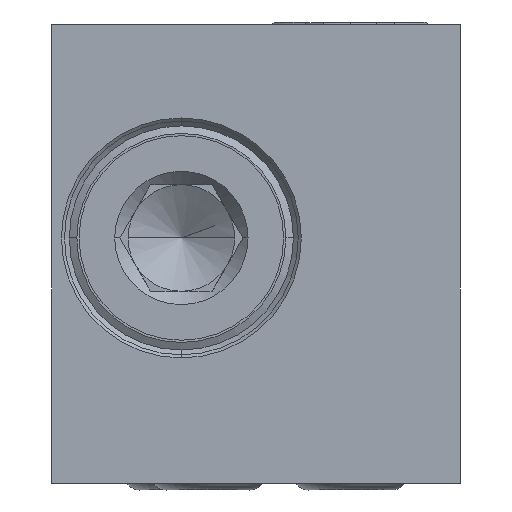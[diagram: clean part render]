
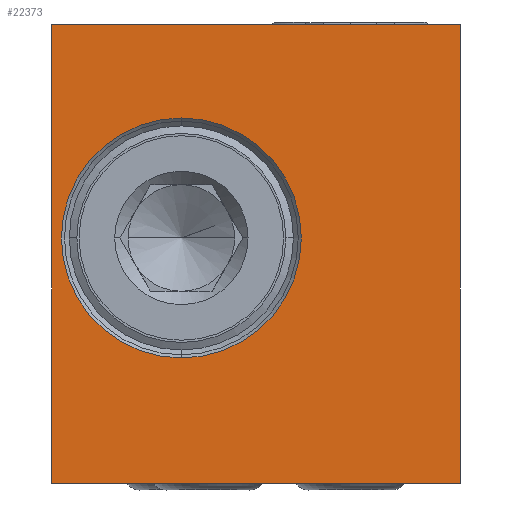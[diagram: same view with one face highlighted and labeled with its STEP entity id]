
A CAD part, left-side view. The second image highlights one B-rep face of the part: STEP entity #22373.
In plain terms, the highlighted planar face has unit normal (-1, 0, 0).
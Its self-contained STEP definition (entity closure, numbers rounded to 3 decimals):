
#4141=DIRECTION('',(0.,0.,1.));
#4142=VECTOR('',#4141,25.8);
#4143=CARTESIAN_POINT('',(-38.,11.5,-12.9));
#4144=LINE('',#4143,#4142);
#4145=DIRECTION('',(0.,-1.,0.));
#4146=VECTOR('',#4145,23.);
#4147=CARTESIAN_POINT('',(-38.,11.5,12.9));
#4148=LINE('',#4147,#4146);
#4149=DIRECTION('',(0.,0.,-1.));
#4150=VECTOR('',#4149,25.8);
#4151=CARTESIAN_POINT('',(-38.,-11.5,12.9));
#4152=LINE('',#4151,#4150);
#4153=DIRECTION('',(0.,1.,0.));
#4154=VECTOR('',#4153,23.);
#4155=CARTESIAN_POINT('',(-38.,-11.5,-12.9));
#4156=LINE('',#4155,#4154);
#4157=CARTESIAN_POINT('',(-38.,4.2,0.9));
#4158=DIRECTION('',(-1.,0.,0.));
#4159=DIRECTION('',(0.,0.,-1.));
#4160=AXIS2_PLACEMENT_3D('',#4157,#4158,#4159);
#4162=CARTESIAN_POINT('',(-38.,4.2,0.9));
#4163=DIRECTION('',(-1.,0.,0.));
#4164=DIRECTION('',(0.,0.,1.));
#4165=AXIS2_PLACEMENT_3D('',#4162,#4163,#4164);
#15331=CARTESIAN_POINT('',(-38.,11.5,12.9));
#15332=VERTEX_POINT('',#15331);
#15333=CARTESIAN_POINT('',(-38.,11.5,-12.9));
#15334=VERTEX_POINT('',#15333);
#15335=CARTESIAN_POINT('',(-38.,-11.5,12.9));
#15336=VERTEX_POINT('',#15335);
#15357=CARTESIAN_POINT('',(-38.,-11.5,-12.9));
#15358=VERTEX_POINT('',#15357);
#15403=CARTESIAN_POINT('',(-38.,4.2,-5.85));
#15404=CARTESIAN_POINT('',(-38.,4.2,7.65));
#15405=VERTEX_POINT('',#15403);
#15406=VERTEX_POINT('',#15404);
#22354=CARTESIAN_POINT('',(-38.,0.,0.));
#22355=DIRECTION('',(-1.,0.,0.));
#22356=DIRECTION('',(0.,-1.,0.));
#22357=AXIS2_PLACEMENT_3D('',#22354,#22355,#22356);
#22358=PLANE('',#22357);
#22359=ORIENTED_EDGE('',*,*,#22347,.T.);
#22360=ORIENTED_EDGE('',*,*,#20097,.T.);
#22362=ORIENTED_EDGE('',*,*,#22361,.T.);
#22364=ORIENTED_EDGE('',*,*,#22363,.T.);
#22365=EDGE_LOOP('',(#22359,#22360,#22362,#22364));
#22366=FACE_OUTER_BOUND('',#22365,.F.);
#22368=ORIENTED_EDGE('',*,*,#22367,.T.);
#22370=ORIENTED_EDGE('',*,*,#22369,.T.);
#22371=EDGE_LOOP('',(#22368,#22370));
#22372=FACE_BOUND('',#22371,.F.);
#22373=ADVANCED_FACE('',(#22366,#22372),#22358,.T.);
#4161=CIRCLE('',#4160,6.75);
#4166=CIRCLE('',#4165,6.75);
#20097=EDGE_CURVE('',#15332,#15336,#4148,.T.);
#22347=EDGE_CURVE('',#15334,#15332,#4144,.T.);
#22361=EDGE_CURVE('',#15336,#15358,#4152,.T.);
#22363=EDGE_CURVE('',#15358,#15334,#4156,.T.);
#22367=EDGE_CURVE('',#15405,#15406,#4161,.T.);
#22369=EDGE_CURVE('',#15406,#15405,#4166,.T.);
